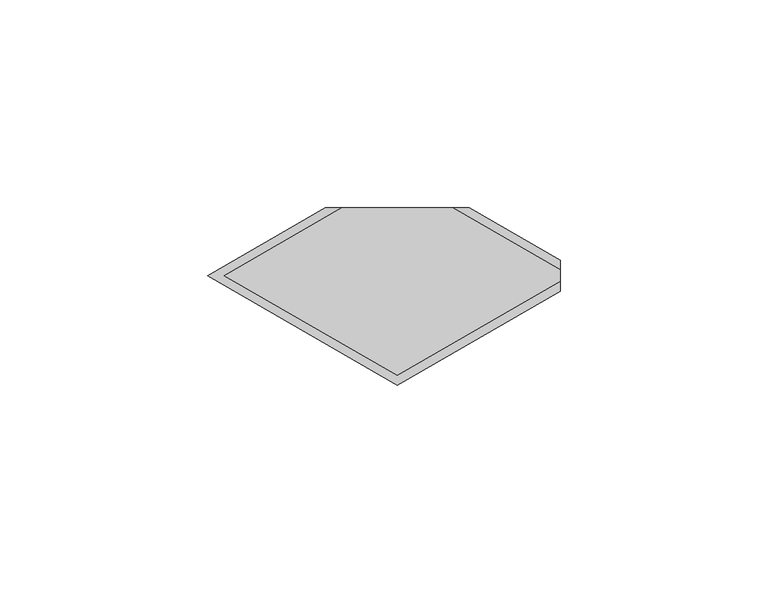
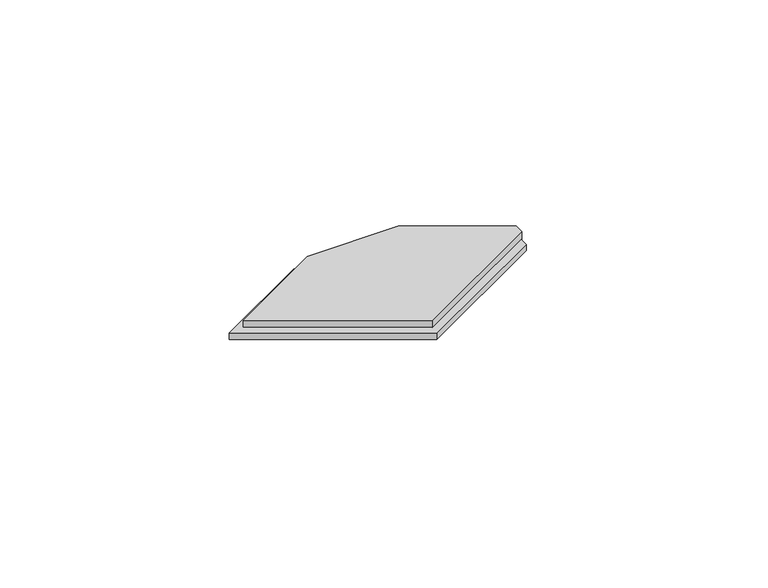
"""IFC4 building model written with IfcOpenShell, lengths in millimetres: proxy geometry, PBSHOP - CUBICA PISTACHE 4,8X8,3 : CUBICA PISTACHE - POSIÇÃO 03."""

from ifc_helpers import new_model, si_unit, frame, origin, origin_with_axes, place, context, project, spatial, polyline, outline, extrude, source, transform, mapped, element, save


def generic_models_96c2da39(model_context):
    return source(origin(), model_context, "Body", "SweptSolid", [
        extrude(outline(polyline([(0.0, -26.3094011), (-45.5692194, 0.0), (-17.3205081, 16.3094011), (17.3205081, 16.3094011), (39.1692194, 3.6950417), (39.1692194, -3.6950417), (0.0, -26.3094011)])), origin_with_axes(), (0.0, 0.0, 1.0), 2.0),
        extrude(outline(polyline([(0.0, -24.0), (-41.5692194, 0.0), (-13.3205081, 16.3094011), (13.3205081, 16.3094011), (39.1692194, 1.3856406), (39.1692194, -1.3856406), (0.0, -24.0)])), frame((0.0, 0.0, 2.0), z_axis=(0.0, 0.0, 1.0), x_axis=(1.0, 0.0, 0.0)), (0.0, 0.0, 1.0), 2.5),
    ])


if __name__ == "__main__":
    model = new_model("IFC4")
    model_context = context("Model", 3, world=origin())
    ifc_project = project(units=[si_unit("LENGTHUNIT", "METRE", prefix="MILLI")], contexts=[model_context])
    site = spatial("IfcSite", under=ifc_project)
    building = spatial("IfcBuilding", under=site)
    placement = place(None, origin())
    generic_models_shape = generic_models_96c2da39(model_context)
    element("IfcBuildingElementProxy", 1, Name="PBSHOP - CUBICA PISTACHE 4,8X8,3 : CUBICA PISTACHE - POSIÇÃO 03", ObjectType="PBSHOP - CUBICA PISTACHE 4,8X8,3 : CUBICA PISTACHE - POSIÇÃO 03", at=placement, inside=building, context=model_context, shape_type="MappedRepresentation", body=[
        mapped(generic_models_shape, transform((0.0, 0.0, 0.0), x_axis=(1.0, 0.0, 0.0), y_axis=(0.0, 1.0, 0.0), z_axis=(0.0, 0.0, 1.0))),
    ])
    save(model, "model.ifc")
